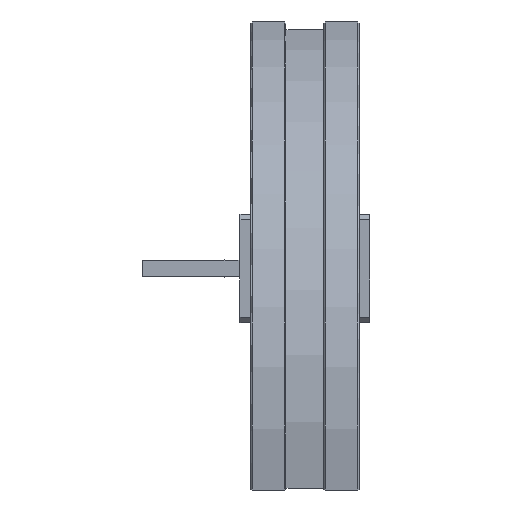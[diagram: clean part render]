
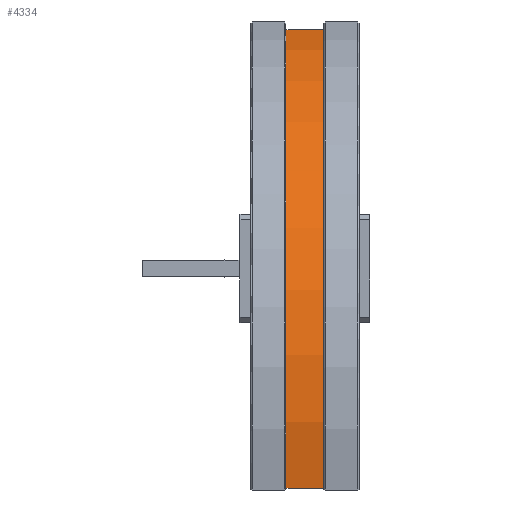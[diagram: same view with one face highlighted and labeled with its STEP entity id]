
A CAD part, left-side view. The second image highlights one B-rep face of the part: STEP entity #4334.
In plain terms, the highlighted cylindrical face has radius 141.95 mm (diameter 283.9 mm), a partial arc.
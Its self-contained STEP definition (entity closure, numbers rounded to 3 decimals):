
#3375 = PLANE('',#3376);
#3376 = AXIS2_PLACEMENT_3D('',#3377,#3378,#3379);
#3377 = CARTESIAN_POINT('',(143.905,44.,-30.471));
#3378 = DIRECTION('',(-0.216,0.,0.976));
#3379 = DIRECTION('',(0.,-1.,0.));
#3508 = VERTEX_POINT('',#3509);
#3509 = CARTESIAN_POINT('',(5.32,17.,-61.195));
#3523 = PLANE('',#3524);
#3524 = AXIS2_PLACEMENT_3D('',#3525,#3526,#3527);
#3525 = CARTESIAN_POINT('',(282.49,17.,0.252));
#3526 = DIRECTION('',(0.,1.,0.));
#3527 = DIRECTION('',(-0.216,0.,0.976));
#3535 = EDGE_CURVE('',#3508,#3536,#3538,.T.);
#3536 = VERTEX_POINT('',#3537);
#3537 = CARTESIAN_POINT('',(5.32,31.,-61.195));
#3538 = SURFACE_CURVE('',#3539,(#3543,#3550),.PCURVE_S1.);
#3539 = LINE('',#3540,#3541);
#3540 = CARTESIAN_POINT('',(5.32,-26.,-61.195));
#3541 = VECTOR('',#3542,1.);
#3542 = DIRECTION('',(0.,1.,0.));
#3543 = PCURVE('',#3375,#3544);
#3544 = DEFINITIONAL_REPRESENTATION('',(#3545),#3549);
#3545 = LINE('',#3546,#3547);
#3546 = CARTESIAN_POINT('',(70.,-141.95));
#3547 = VECTOR('',#3548,1.);
#3548 = DIRECTION('',(-1.,0.));
#3549 = ( GEOMETRIC_REPRESENTATION_CONTEXT(2) 
PARAMETRIC_REPRESENTATION_CONTEXT() REPRESENTATION_CONTEXT('2D SPACE',''
  ) );
#3550 = PCURVE('',#3551,#3556);
#3551 = CYLINDRICAL_SURFACE('',#3552,141.95);
#3552 = AXIS2_PLACEMENT_3D('',#3553,#3554,#3555);
#3553 = CARTESIAN_POINT('',(143.905,-26.,-30.471));
#3554 = DIRECTION('',(0.,-1.,0.));
#3555 = DIRECTION('',(0.216,0.,-0.976));
#3556 = DEFINITIONAL_REPRESENTATION('',(#3557),#3560);
#3557 = B_SPLINE_CURVE_WITH_KNOTS('',1,(#3558,#3559),.UNSPECIFIED.,.F.,
  .F.,(2,2),(43.,57.),.PIECEWISE_BEZIER_KNOTS.);
#3558 = CARTESIAN_POINT('',(4.712,-43.));
#3559 = CARTESIAN_POINT('',(4.712,-57.));
#3560 = ( GEOMETRIC_REPRESENTATION_CONTEXT(2) 
PARAMETRIC_REPRESENTATION_CONTEXT() REPRESENTATION_CONTEXT('2D SPACE',''
  ) );
#3578 = PLANE('',#3579);
#3579 = AXIS2_PLACEMENT_3D('',#3580,#3581,#3582);
#3580 = CARTESIAN_POINT('',(282.49,31.,0.252));
#3581 = DIRECTION('',(0.,-1.,0.));
#3582 = DIRECTION('',(0.216,0.,-0.976));
#3795 = PLANE('',#3796);
#3796 = AXIS2_PLACEMENT_3D('',#3797,#3798,#3799);
#3797 = CARTESIAN_POINT('',(143.905,44.,-30.471));
#3798 = DIRECTION('',(-0.976,0.,-0.216
    ));
#3799 = DIRECTION('',(0.,1.,0.));
#4288 = VERTEX_POINT('',#4289);
#4289 = CARTESIAN_POINT('',(113.181,17.,108.114));
#4310 = EDGE_CURVE('',#4288,#3508,#4311,.T.);
#4311 = SURFACE_CURVE('',#4312,(#4317,#4328),.PCURVE_S1.);
#4312 = CIRCLE('',#4313,141.95);
#4313 = AXIS2_PLACEMENT_3D('',#4314,#4315,#4316);
#4314 = CARTESIAN_POINT('',(143.905,17.,-30.471));
#4315 = DIRECTION('',(0.,-1.,0.));
#4316 = DIRECTION('',(0.216,0.,-0.976));
#4317 = PCURVE('',#3523,#4318);
#4318 = DEFINITIONAL_REPRESENTATION('',(#4319),#4327);
#4319 = ( BOUNDED_CURVE() B_SPLINE_CURVE(2,(#4320,#4321,#4322,#4323,
#4324,#4325,#4326),.UNSPECIFIED.,.T.,.F.) B_SPLINE_CURVE_WITH_KNOTS((1,2
    ,2,2,2,1),(-2.094,0.,2.094,4.189,
6.283,8.378),.UNSPECIFIED.) CURVE() 
GEOMETRIC_REPRESENTATION_ITEM() RATIONAL_B_SPLINE_CURVE((1.,0.5,1.,0.5,
1.,0.5,1.)) REPRESENTATION_ITEM('') );
#4320 = CARTESIAN_POINT('',(-141.95,-141.95));
#4321 = CARTESIAN_POINT('',(-141.95,103.915));
#4322 = CARTESIAN_POINT('',(70.975,-19.018));
#4323 = CARTESIAN_POINT('',(283.9,-141.95));
#4324 = CARTESIAN_POINT('',(70.975,-264.882));
#4325 = CARTESIAN_POINT('',(-141.95,-387.815));
#4326 = CARTESIAN_POINT('',(-141.95,-141.95));
#4327 = ( GEOMETRIC_REPRESENTATION_CONTEXT(2) 
PARAMETRIC_REPRESENTATION_CONTEXT() REPRESENTATION_CONTEXT('2D SPACE',''
  ) );
#4328 = PCURVE('',#3551,#4329);
#4329 = DEFINITIONAL_REPRESENTATION('',(#4330),#4333);
#4330 = B_SPLINE_CURVE_WITH_KNOTS('',1,(#4331,#4332),.UNSPECIFIED.,.F.,
  .F.,(2,2),(3.142,4.712),.PIECEWISE_BEZIER_KNOTS.);
#4331 = CARTESIAN_POINT('',(3.142,-43.));
#4332 = CARTESIAN_POINT('',(4.712,-43.));
#4333 = ( GEOMETRIC_REPRESENTATION_CONTEXT(2) 
PARAMETRIC_REPRESENTATION_CONTEXT() REPRESENTATION_CONTEXT('2D SPACE',''
  ) );
#4334 = ADVANCED_FACE('',(#4335),#3551,.T.);
#4335 = FACE_BOUND('',#4336,.T.);
#4336 = EDGE_LOOP('',(#4337,#4338,#4339,#4361));
#4337 = ORIENTED_EDGE('',*,*,#3535,.F.);
#4338 = ORIENTED_EDGE('',*,*,#4310,.F.);
#4339 = ORIENTED_EDGE('',*,*,#4340,.F.);
#4340 = EDGE_CURVE('',#4341,#4288,#4343,.T.);
#4341 = VERTEX_POINT('',#4342);
#4342 = CARTESIAN_POINT('',(113.181,31.,108.114));
#4343 = SURFACE_CURVE('',#4344,(#4348,#4354),.PCURVE_S1.);
#4344 = LINE('',#4345,#4346);
#4345 = CARTESIAN_POINT('',(113.181,-26.,108.114));
#4346 = VECTOR('',#4347,1.);
#4347 = DIRECTION('',(0.,-1.,0.));
#4348 = PCURVE('',#3551,#4349);
#4349 = DEFINITIONAL_REPRESENTATION('',(#4350),#4353);
#4350 = B_SPLINE_CURVE_WITH_KNOTS('',1,(#4351,#4352),.UNSPECIFIED.,.F.,
  .F.,(2,2),(-57.,-43.),.PIECEWISE_BEZIER_KNOTS.);
#4351 = CARTESIAN_POINT('',(3.142,-57.));
#4352 = CARTESIAN_POINT('',(3.142,-43.));
#4353 = ( GEOMETRIC_REPRESENTATION_CONTEXT(2) 
PARAMETRIC_REPRESENTATION_CONTEXT() REPRESENTATION_CONTEXT('2D SPACE',''
  ) );
#4354 = PCURVE('',#3795,#4355);
#4355 = DEFINITIONAL_REPRESENTATION('',(#4356),#4360);
#4356 = LINE('',#4357,#4358);
#4357 = CARTESIAN_POINT('',(-70.,-141.95));
#4358 = VECTOR('',#4359,1.);
#4359 = DIRECTION('',(-1.,0.));
#4360 = ( GEOMETRIC_REPRESENTATION_CONTEXT(2) 
PARAMETRIC_REPRESENTATION_CONTEXT() REPRESENTATION_CONTEXT('2D SPACE',''
  ) );
#4361 = ORIENTED_EDGE('',*,*,#4362,.T.);
#4362 = EDGE_CURVE('',#4341,#3536,#4363,.T.);
#4363 = SURFACE_CURVE('',#4364,(#4369,#4375),.PCURVE_S1.);
#4364 = CIRCLE('',#4365,141.95);
#4365 = AXIS2_PLACEMENT_3D('',#4366,#4367,#4368);
#4366 = CARTESIAN_POINT('',(143.905,31.,-30.471));
#4367 = DIRECTION('',(0.,-1.,0.));
#4368 = DIRECTION('',(0.216,0.,-0.976));
#4369 = PCURVE('',#3551,#4370);
#4370 = DEFINITIONAL_REPRESENTATION('',(#4371),#4374);
#4371 = B_SPLINE_CURVE_WITH_KNOTS('',1,(#4372,#4373),.UNSPECIFIED.,.F.,
  .F.,(2,2),(3.142,4.712),.PIECEWISE_BEZIER_KNOTS.);
#4372 = CARTESIAN_POINT('',(3.142,-57.));
#4373 = CARTESIAN_POINT('',(4.712,-57.));
#4374 = ( GEOMETRIC_REPRESENTATION_CONTEXT(2) 
PARAMETRIC_REPRESENTATION_CONTEXT() REPRESENTATION_CONTEXT('2D SPACE',''
  ) );
#4375 = PCURVE('',#3578,#4376);
#4376 = DEFINITIONAL_REPRESENTATION('',(#4377),#4381);
#4377 = CIRCLE('',#4378,141.95);
#4378 = AXIS2_PLACEMENT_2D('',#4379,#4380);
#4379 = CARTESIAN_POINT('',(0.,-141.95));
#4380 = DIRECTION('',(1.,0.));
#4381 = ( GEOMETRIC_REPRESENTATION_CONTEXT(2) 
PARAMETRIC_REPRESENTATION_CONTEXT() REPRESENTATION_CONTEXT('2D SPACE',''
  ) );
